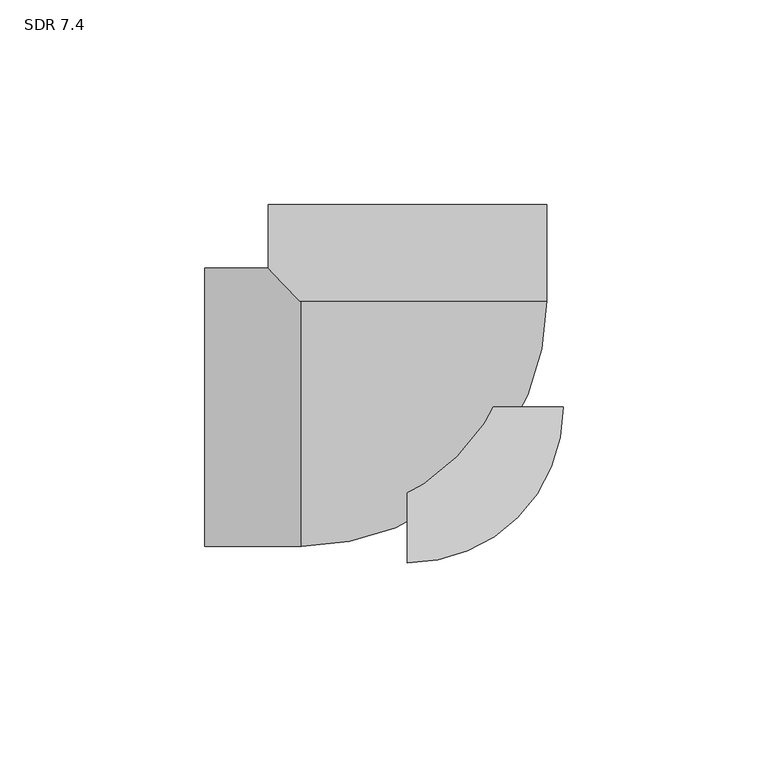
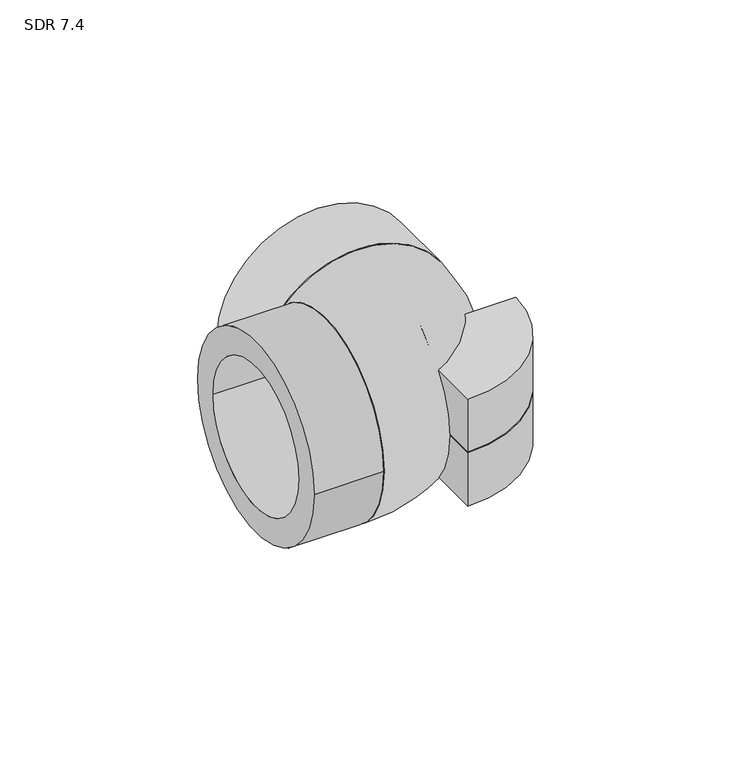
"""IFC4 building model written with IfcOpenShell, lengths in millimetres: pipe fitting geometry, Aquatherm - Elbow Socket : SDR 7.4."""

from ifc_helpers import new_model, si_unit, point, frame, origin, origin_with_axes, origin_2d, place, context, project, spatial, polyline, circle_curve, ellipse_curve, trimmed, segment, composite_curve, outline, extrude, source, transform, mapped, element, save
from ifc_brep_helpers import plane_surface, revolved_surface, advanced_brep


def sdr_7_4_c1df52ec(model_context):
    return source(origin(), model_context, "Body", "SolidModel", [
        extrude(outline(composite_curve([segment(polyline([(0.0, -38.1), (0.0, 0.0), (38.1, 0.0)]), True, "CONTINUOUS"), segment(trimmed(circle_curve(origin_2d(), 38.1), [point((38.1, 0.0))], [point((0.0, -38.1))], False, "CARTESIAN"), True, "CONTINUOUS")], self_intersect=False)), frame((0.0, 0.0, -19.05), z_axis=(0.0, 0.0, 1.0), x_axis=(1.0, 0.0, 0.0)), (0.0, 0.0, 1.0), 19.05),
        extrude(outline(composite_curve([segment(trimmed(circle_curve(origin_2d(), 38.1), [point((38.1, 0.0))], [point((0.0, -38.1))], False, "CARTESIAN"), True, "CONTINUOUS"), segment(polyline([(0.0, -38.1), (0.0, 0.0), (38.1, 0.0)]), True, "CONTINUOUS")], self_intersect=False)), origin_with_axes(), (0.0, 0.0, 1.0), 19.05),
        extrude(outline(composite_curve([segment(trimmed(circle_curve(origin_2d(), 34.036), [point((0.0, 34.036))], [point((0.0, -34.036))], False, "CARTESIAN"), True, "CONTINUOUS"), segment(trimmed(circle_curve(origin_2d(), 34.036), [point((0.0, -34.036))], [point((0.0, 34.036))], False, "CARTESIAN"), True, "CONTINUOUS")], self_intersect=False), holes=[composite_curve([segment(trimmed(circle_curve(origin_2d(), 25.019), [point((0.0, 25.019))], [point((0.0, -25.019))], True, "CARTESIAN"), True, "CONTINUOUS"), segment(trimmed(circle_curve(origin_2d(), 25.019), [point((0.0, -25.019))], [point((0.0, 25.019))], True, "CARTESIAN"), True, "CONTINUOUS")], self_intersect=False)]), frame((0.0, 25.908, 0.0), z_axis=(0.0, 1.0, 0.0), x_axis=(0.0, 0.0, 1.0)), (0.0, 0.0, 1.0), 23.622),
        advanced_brep(
        [(-25.908, 25.908, -22.07317), (-25.908, 25.908, 22.07317), (-25.908, -18.0692778, 0.0), (-25.908, 18.0692778, 0.0), (18.0692778, 25.908, 0.0), (-18.0692778, 25.908, 0.0)],
        [
            (0, 1, circle_curve(frame((-25.908, 0.0, 0.0), z_axis=(-1.0, 0.0, 0.0), x_axis=(0.0, 1.0, 0.0)), 34.036)),
            (1, 0),
            (2, 3, circle_curve(frame((-25.908, 0.0, 0.0), z_axis=(1.0, 0.0, 0.0), x_axis=(0.0, 1.0, 0.0)), 18.0692778)),
            (3, 2, circle_curve(frame((-25.908, 0.0, 0.0), z_axis=(1.0, 0.0, 0.0), x_axis=(0.0, 1.0, 0.0)), 18.0692778)),
            (1, 0, circle_curve(frame((0.0, 25.908, 0.0), z_axis=(0.0, 1.0, 0.0), x_axis=(-1.0, 0.0, 0.0)), 34.036)),
            (4, 5, circle_curve(frame((0.0, 25.908, 0.0), z_axis=(0.0, -1.0, 0.0), x_axis=(-1.0, 0.0, 0.0)), 18.0692778)),
            (5, 4, circle_curve(frame((0.0, 25.908, 0.0), z_axis=(0.0, -1.0, 0.0), x_axis=(-1.0, 0.0, 0.0)), 18.0692778)),
            (5, 3, circle_curve(frame((-25.908, 25.908, 0.0), z_axis=(0.0, 0.0, -1.0), x_axis=(0.0, -1.0, 0.0)), 7.8387222)),
            (2, 4, circle_curve(frame((-25.908, 25.908, 0.0), z_axis=(0.0, 0.0, 1.0), x_axis=(0.0, -1.0, 0.0)), 43.9772778)),
        ],
        [
            plane_surface(frame((-25.908, 25.908, 79.22317), z_axis=(-1.0, 0.0, 0.0), x_axis=(0.0, -1.0, 0.0))),
            plane_surface(frame((-25.908, 25.908, 79.22317), z_axis=(0.0, 1.0, 0.0), x_axis=(1.0, 0.0, 0.0))),
            revolved_surface(trimmed(ellipse_curve(frame((-25.908, 0.0, 0.0), z_axis=(1.0, 0.0, 0.0), x_axis=(0.0, 1.0, 0.0)), 34.036, 34.036), [point((-25.908, 25.908, 22.07317))], [point((-25.908, 25.908, -22.07317))], True, "CARTESIAN"), (-25.908, 25.908, 79.22317), (0.0, 0.0, -1.0)),
            revolved_surface(trimmed(ellipse_curve(frame((-25.908, 0.0, 0.0), z_axis=(-1.0, 0.0, 0.0), x_axis=(0.0, 1.0, 0.0)), 18.0692778, 18.0692778), [point((-25.908, 18.0692778, 0.0))], [point((-25.908, -18.0692778, 0.0))], True, "CARTESIAN"), (-25.908, 25.908, 79.22317), (0.0, 0.0, -1.0)),
            revolved_surface(trimmed(ellipse_curve(frame((-25.908, 0.0, 0.0), z_axis=(-1.0, 0.0, 0.0), x_axis=(0.0, 1.0, 0.0)), 18.0692778, 18.0692778), [point((-25.908, -18.0692778, 0.0))], [point((-25.908, 18.0692778, 0.0))], True, "CARTESIAN"), (-25.908, 25.908, 79.22317), (0.0, 0.0, -1.0)),
        ],
        [
            (0, [[1, 2], [3, 4]]),
            (1, [[5, -2], [6, 7]]),
            (2, [[-1, -5]]),
            (3, [[8, -3, 9, -7]]),
            (4, [[-9, -4, -8, -6]]),
        ],
    ),
        extrude(outline(composite_curve([segment(trimmed(circle_curve(origin_2d(), 34.036), [point((34.036, 0.0))], [point((-34.036, 0.0))], False, "CARTESIAN"), True, "CONTINUOUS"), segment(trimmed(circle_curve(origin_2d(), 34.036), [point((-34.036, 0.0))], [point((34.036, 0.0))], False, "CARTESIAN"), True, "CONTINUOUS")], self_intersect=False), holes=[composite_curve([segment(trimmed(circle_curve(origin_2d(), 25.019), [point((25.019, 0.0))], [point((-25.019, 0.0))], True, "CARTESIAN"), True, "CONTINUOUS"), segment(trimmed(circle_curve(origin_2d(), 25.019), [point((-25.019, 0.0))], [point((25.019, 0.0))], True, "CARTESIAN"), True, "CONTINUOUS")], self_intersect=False)]), frame((-49.53, 0.0, 0.0), z_axis=(1.0, 0.0, 0.0), x_axis=(0.0, 1.0, 0.0)), (0.0, 0.0, 1.0), 23.622),
    ])


if __name__ == "__main__":
    model = new_model("IFC4")
    model_context = context("Model", 3, world=origin())
    ifc_project = project(units=[si_unit("LENGTHUNIT", "METRE", prefix="MILLI")], contexts=[model_context])
    site = spatial("IfcSite", under=ifc_project)
    building = spatial("IfcBuilding", under=site)
    placement = place(None, origin())
    sdr_7_4_shape = sdr_7_4_c1df52ec(model_context)
    element("IfcPipeFitting", 1, ObjectType="Aquatherm - Elbow Socket : SDR 7.4", at=placement, inside=building, context=model_context, shape_type="MappedRepresentation", body=[
        mapped(sdr_7_4_shape, transform((0.0, 0.0, 0.0), x_axis=(1.0, 0.0, 0.0), y_axis=(0.0, 1.0, 0.0), z_axis=(0.0, 0.0, 1.0))),
    ])
    save(model, "model.ifc")
